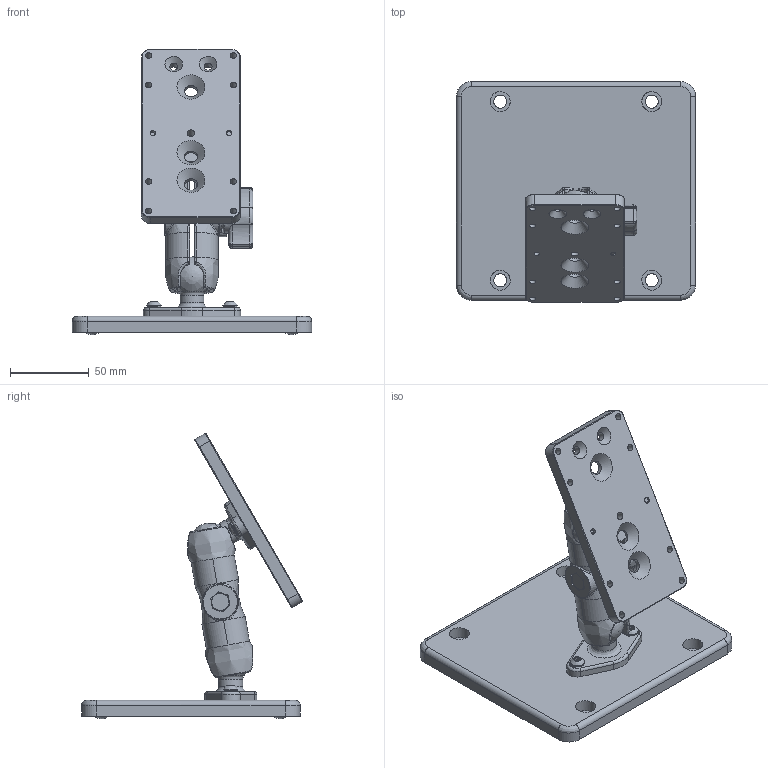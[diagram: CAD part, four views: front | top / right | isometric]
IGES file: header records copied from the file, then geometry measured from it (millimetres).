
Global section: file name: AC1100; native system: Autodesk RealDWG; preprocessor: Autodesk Translation Framework DWG producer (atf_dwg_producer); organization: unknown; date: 20220113.141522; units: inch
Bounding box: 152.4 x 140.72 x 181.81 mm (x, y, z)
Volume: 360478.6 mm3; surface area: 92919.2 mm2
Topology: 1 solids, 12 shells, 771 faces, 2208 edges, 1474 vertices
Faces by surface type: bspline 771
